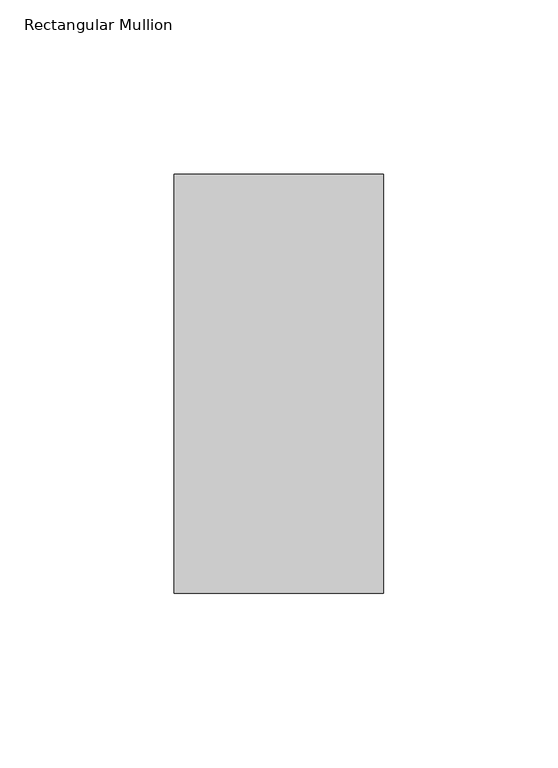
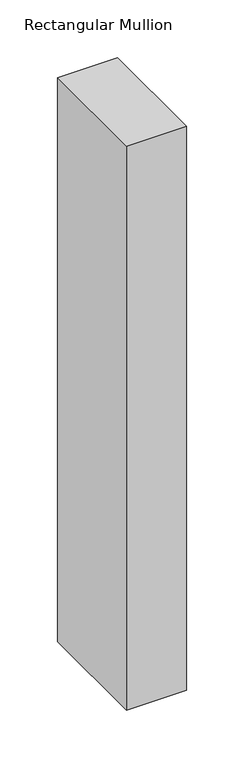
"""IFC4 building model written with IfcOpenShell, lengths in millimetres: member geometry, Rectangular Mullion : Terça."""

import ifcopenshell
import ifcopenshell.guid

model = None  # the IFC model being written
_history = None  # IfcOwnerHistory: only IFC2X3 demands one
_inside = {}  # id of a spatial element -> (the spatial element, [elements in it])
_under = {}  # id of a project, library or spatial element -> (it, [spatial elements below it])
_declared = {}  # id of a project -> (the project, [libraries it declares])
_typed = {}  # id of a type object -> (the type object, [elements of that type])
_made_of = {}  # id of a material, layer set ... -> (it, [elements and type objects made of it])


def new_model(schema):
    """Start an empty IFC model of exactly this schema.

    Asked for "IFC4X3", IfcOpenShell would pick the latest addendum, in which some entities
    have other attributes; the version numbers below select the first issue.
    IFC2X3 requires an IfcOwnerHistory on every rooted entity: one is made here for all.
    """
    global model, _history
    if schema == "IFC4X3":
        model = ifcopenshell.file(schema_version=(4, 3, 0, 0))
    else:
        model = ifcopenshell.file(schema=schema)
    _inside.clear()
    _under.clear()
    _declared.clear()
    _typed.clear()
    _made_of.clear()
    _history = None
    if model.schema == "IFC2X3":
        org = make("IfcOrganization", Name="unknown")
        user = make(
            "IfcPersonAndOrganization",
            ThePerson=make("IfcPerson", FamilyName="unknown"),
            TheOrganization=org,
        )
        app = make(
            "IfcApplication",
            ApplicationDeveloper=org,
            Version="unknown",
            ApplicationFullName="unknown",
            ApplicationIdentifier="unknown",
        )
        _history = make(
            "IfcOwnerHistory",
            OwningUser=user,
            OwningApplication=app,
            ChangeAction="ADDED",
            CreationDate=0,
        )
    return model


def make(cls, **values):
    """One entity of the class cls with the attributes given. An attribute that is None is left unset."""
    return model.create_entity(
        cls, **{name: value for name, value in values.items() if value is not None}
    )


def rooted(cls, **values):
    """An entity with a GlobalId (a new one), such as an element, a storey or a relation."""
    return make(cls, GlobalId=ifcopenshell.guid.new(), OwnerHistory=_history, **values)


def si_unit(unit_type, name, prefix=None):
    """IfcSIUnit, for example si_unit("LENGTHUNIT", "METRE", prefix="MILLI")."""
    return make("IfcSIUnit", UnitType=unit_type, Prefix=prefix, Name=name)


def assignment(units):
    """IfcUnitAssignment: the units of a project."""
    return None if units is None else make("IfcUnitAssignment", Units=units)


def point(xyz):
    """IfcCartesianPoint."""
    return None if xyz is None else make("IfcCartesianPoint", Coordinates=xyz)


def direction(xyz):
    """IfcDirection."""
    return None if xyz is None else make("IfcDirection", DirectionRatios=xyz)


def frame(location, z_axis=None, x_axis=None):
    """IfcAxis2Placement3D, a coordinate frame: its origin and axes. An axis left out is left unset."""
    return make(
        "IfcAxis2Placement3D",
        Location=point(location),
        Axis=direction(z_axis),
        RefDirection=direction(x_axis),
    )


def origin():
    """The frame at (0, 0, 0) with its axes left unset."""
    return frame((0.0, 0.0, 0.0))


def place(relative_to, where):
    """IfcLocalPlacement: puts the frame where relative to a parent placement (None: the world)."""
    return make(
        "IfcLocalPlacement", PlacementRelTo=relative_to, RelativePlacement=where
    )


def context(
    kind, dimensions, precision=None, world=None, true_north=None, identifier=None
):
    """IfcGeometricRepresentationContext, for example the 3D "Model" context."""
    return make(
        "IfcGeometricRepresentationContext",
        ContextIdentifier=identifier,
        ContextType=kind,
        CoordinateSpaceDimension=dimensions,
        Precision=precision,
        WorldCoordinateSystem=world,
        TrueNorth=true_north,
    )


def project(units=None, contexts=None):
    """IfcProject with its units and contexts."""
    return rooted(
        "IfcProject",
        Name="project",
        RepresentationContexts=contexts,
        UnitsInContext=assignment(units),
    )


def spatial(cls, under=None, at=None, **own):
    """A site, building, storey or space (cls), placed at a placement, below another one or the project."""
    s = rooted(cls, ObjectPlacement=at, **own)
    if under is not None:
        _under.setdefault(under.id(), (under, []))[1].append(s)
    return s


def polyline(points):
    """IfcPolyline through the points."""
    return make("IfcPolyline", Points=[point(p) for p in points])


def outline(outer, holes=None, kind="AREA"):
    """IfcArbitraryClosedProfileDef: a profile drawn as a closed curve; with holes, ...WithVoids."""
    if holes is None:
        return make("IfcArbitraryClosedProfileDef", ProfileType=kind, OuterCurve=outer)
    return make(
        "IfcArbitraryProfileDefWithVoids",
        ProfileType=kind,
        OuterCurve=outer,
        InnerCurves=holes,
    )


def extrude(swept, where, along, depth):
    """IfcExtrudedAreaSolid: the profile swept, set in the frame where, extruded along a direction by depth."""
    return make(
        "IfcExtrudedAreaSolid",
        SweptArea=swept,
        Position=where,
        ExtrudedDirection=direction(along),
        Depth=depth,
    )


def shape(context_of_items, identifier, shape_type, items):
    """IfcShapeRepresentation: the items that make up one representation, for example the "Body"."""
    return make(
        "IfcShapeRepresentation",
        ContextOfItems=context_of_items,
        RepresentationIdentifier=identifier,
        RepresentationType=shape_type,
        Items=items,
    )


def source(mapping_origin, context_of_items, identifier, shape_type, items):
    """IfcRepresentationMap: a shape defined once, which mapped items show again and again."""
    return make(
        "IfcRepresentationMap",
        MappingOrigin=mapping_origin,
        MappedRepresentation=shape(context_of_items, identifier, shape_type, items),
    )


def transform(
    local_origin,
    x_axis=None,
    y_axis=None,
    z_axis=None,
    scale=None,
    scale2=None,
    scale3=None,
    uniform=True,
):
    """IfcCartesianTransformationOperator3D, or its non-uniform kind. x_axis, y_axis, z_axis: its Axis1, 2, 3."""
    if uniform:
        return make(
            "IfcCartesianTransformationOperator3D",
            Axis1=direction(x_axis),
            Axis2=direction(y_axis),
            LocalOrigin=point(local_origin),
            Scale=scale,
            Axis3=direction(z_axis),
        )
    return make(
        "IfcCartesianTransformationOperator3DnonUniform",
        Axis1=direction(x_axis),
        Axis2=direction(y_axis),
        LocalOrigin=point(local_origin),
        Scale=scale,
        Axis3=direction(z_axis),
        Scale2=scale2,
        Scale3=scale3,
    )


def mapped(mapping_source, mapping_target):
    """IfcMappedItem: shows the shape of a source again, moved by a transform."""
    return make(
        "IfcMappedItem", MappingSource=mapping_source, MappingTarget=mapping_target
    )


def made_of(thing, what):
    """Note that an element or type object is made of a material, layer set ...; save() writes the relation."""
    if what is not None:
        _made_of.setdefault(what.id(), (what, []))[1].append(thing)
    return thing


def element(
    cls,
    number,
    at=None,
    inside=None,
    cuts=None,
    type_object=None,
    material=None,
    context=None,
    identifier="Body",
    shape_type=None,
    held_by="IfcProductDefinitionShape",
    body=None,
    shapes=None,
    **own,
):
    """One element of the class cls, such as IfcWall. Its Tag is "e" and its number.

    at: its placement. inside: the storey or other place that contains it. cuts: it is an
    opening in that element (IfcRelVoidsElement). A single representation is given by context,
    identifier, shape_type and body (its items); several are given by shapes. held_by: the class
    of the entity that holds the representations. save() writes the other relations.
    """
    e = rooted(cls, Tag="e%d" % number, ObjectPlacement=at, **own)
    if body is not None:
        shapes = [shape(context, identifier, shape_type, body)]
    if shapes is not None:
        e.Representation = make(held_by, Representations=shapes)
    if inside is not None:
        _inside.setdefault(inside.id(), (inside, []))[1].append(e)
    if cuts is not None:
        rooted(
            "IfcRelVoidsElement", RelatingBuildingElement=cuts, RelatedOpeningElement=e
        )
    if type_object is not None:
        _typed.setdefault(type_object.id(), (type_object, []))[1].append(e)
    return made_of(e, material)


def aggregate(whole, parts):
    """IfcRelAggregates: a whole, such as a stair, and the parts it consists of."""
    return rooted("IfcRelAggregates", RelatingObject=whole, RelatedObjects=parts)


def save(model, path):
    """Write the relations noted so far, then the file.

    IfcRelAggregates (storeys below a building ...), IfcRelContainedInSpatialStructure (elements
    in a storey), IfcRelDefinesByType, IfcRelAssociatesMaterial and IfcRelDeclares: one each for
    every whole, place, type object, material and project.
    """
    for whole, parts in _under.values():
        aggregate(whole, parts)
    for where, things in _inside.values():
        rooted(
            "IfcRelContainedInSpatialStructure",
            RelatedElements=things,
            RelatingStructure=where,
        )
    for kind, things in _typed.values():
        rooted("IfcRelDefinesByType", RelatedObjects=things, RelatingType=kind)
    for what, things in _made_of.values():
        rooted("IfcRelAssociatesMaterial", RelatedObjects=things, RelatingMaterial=what)
    for by, libraries in _declared.values():
        rooted("IfcRelDeclares", RelatingContext=by, RelatedDefinitions=libraries)
    model.write(path)


def rectangular_mullion_3ac3718c(model_context):
    return source(origin(), model_context, "Body", "SweptSolid", [
        extrude(outline(polyline([(0.0, -120.0), (-60.0, -120.0), (-60.0, 0.0), (0.0, 0.0), (0.0, -120.0)])), frame((0.0, 0.0, -597.0547564), z_axis=(0.0, 0.0, 1.0), x_axis=(1.0, 0.0, 0.0)), (0.0, 0.0, 1.0), 597.0547564),
    ])


if __name__ == "__main__":
    model = new_model("IFC4")
    model_context = context("Model", 3, world=origin())
    ifc_project = project(units=[si_unit("LENGTHUNIT", "METRE", prefix="MILLI")], contexts=[model_context])
    site = spatial("IfcSite", under=ifc_project)
    building = spatial("IfcBuilding", under=site)
    placement = place(None, origin())
    rectangular_mullion_shape = rectangular_mullion_3ac3718c(model_context)
    element("IfcMember", 1, ObjectType="Rectangular Mullion : Terça", at=placement, inside=building, context=model_context, shape_type="MappedRepresentation", body=[
        mapped(rectangular_mullion_shape, transform((0.0, 0.0, 0.0), x_axis=(1.0, 0.0, 0.0), y_axis=(0.0, 1.0, 0.0), z_axis=(0.0, 0.0, 1.0))),
    ])
    save(model, "model.ifc")
